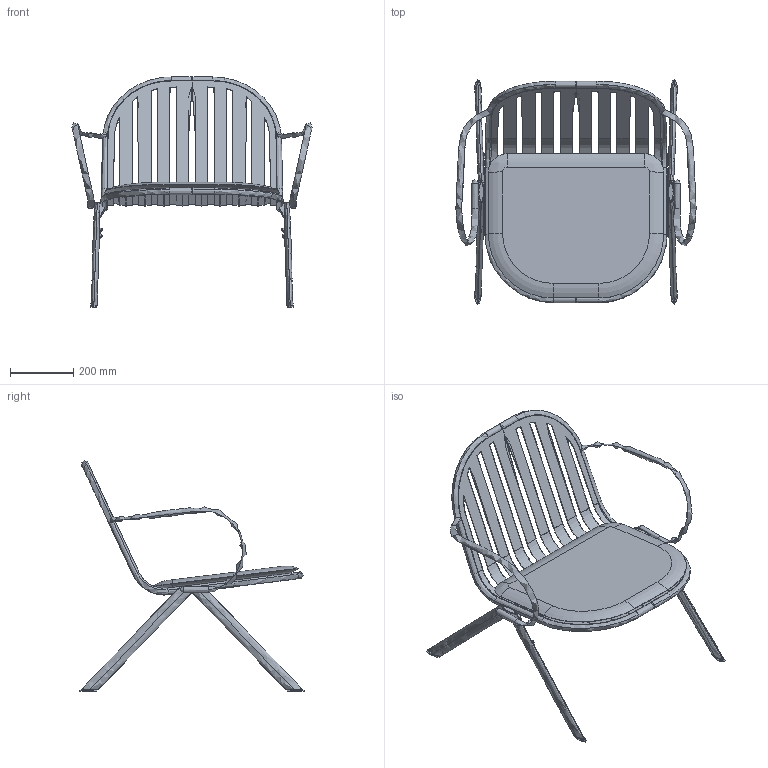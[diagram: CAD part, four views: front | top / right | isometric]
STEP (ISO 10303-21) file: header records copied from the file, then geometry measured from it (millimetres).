
FILE_DESCRIPTION(/* description */ (''),/* implementation_level */ '2;1');
FILE_NAME(/* name */ '\\srvcontab\BABEL D\COMUNICAZIONE\SITO WEB\PRODOTTI\MELIK\MLKLCB\FILE 3D\MLKLCB + cuscino MLKLCCS\MLKLCB + cuscino MLKLCCS.stp',/* time_stamp */ '2021-10-12T08:17:26+02:00',/* author */ ('User'),/* organization */ (''),/* preprocessor_version */ 'ST-DEVELOPER v18',/* originating_system */ 'Autodesk Inventor 2020',/* authorisation */ '');
FILE_SCHEMA (('AUTOMOTIVE_DESIGN { 1 0 10303 214 3 1 1 }'));
Products named in the file (4): MLKLC IMBOTTITO; MLKLCB; MLKLCB_1; MLKLC CUSCINO SEDUTA
Assembly tree (3 placements, depth 3):
  MLKLC IMBOTTITO
    MLKLCB
      MLKLCB_1
    MLKLC CUSCINO SEDUTA
Bounding box: 759.28 x 709.31 x 727.41 mm (x, y, z)
Volume: 8218255.6 mm3; surface area: 1848269.6 mm2
Topology: 29 solids, 33 shells, 499 faces, 1196 edges, 722 vertices
Faces by surface type: bspline 302, plane 98, cylinder 85, sphere 10, torus 4
Full cylindrical faces by diameter (mm): 6 x8, 20 x2, 22 x4
Entity records: 54805 total; most frequent: CARTESIAN_POINT 44932, ORIENTED_EDGE 2356, DIRECTION 1443, EDGE_CURVE 1192, VERTEX_POINT 719, AXIS2_PLACEMENT_3D 549, EDGE_LOOP 509, FACE_OUTER_BOUND 499
